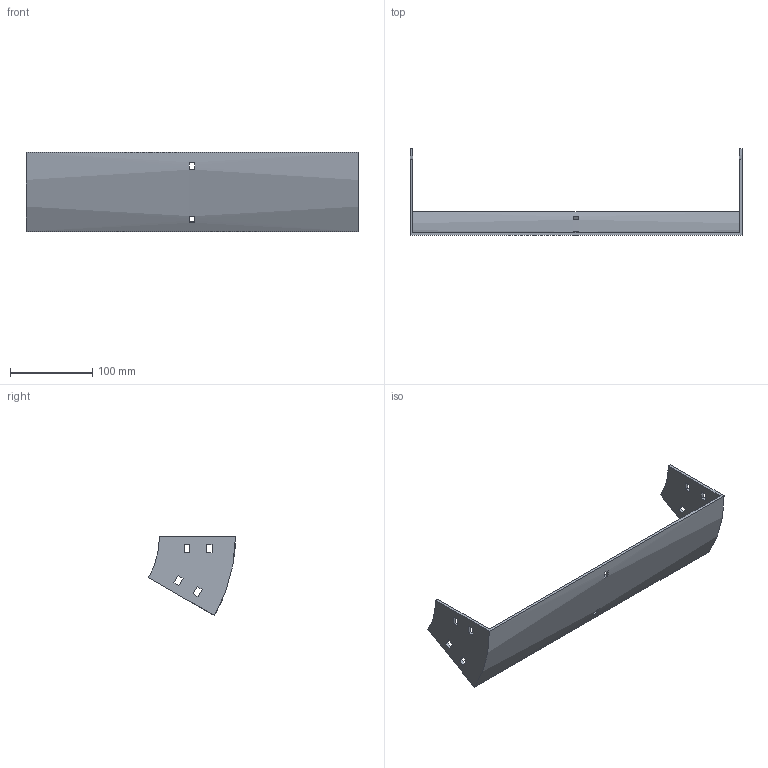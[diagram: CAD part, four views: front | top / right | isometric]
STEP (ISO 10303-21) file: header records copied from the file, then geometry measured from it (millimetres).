
FILE_DESCRIPTION (( 'STEP AP214' ), '1' );
FILE_NAME ('32B1I400.step', '2025-02-21T09:45:21', ( '' ), ( '' ), 'SwSTEP 2.0', 'SolidWorks 2023', '' );
FILE_SCHEMA (( 'AUTOMOTIVE_DESIGN' ));
Length unit declared in the file: millimetre
Products named in the file (1): 32B1I400
Bounding box: 404 x 105.9 x 96.25 mm (x, y, z)
Volume: 185990.4 mm3; surface area: 111897 mm2
Topology: 1 solids, 1 shells, 50 faces, 144 edges, 96 vertices
Faces by surface type: plane 46, cylinder 4
Entity records: 1687 total; most frequent: CARTESIAN_POINT 291, ORIENTED_EDGE 288, DIRECTION 262, EDGE_CURVE 144, LINE 128, VECTOR 128, VERTEX_POINT 96, EDGE_LOOP 70
